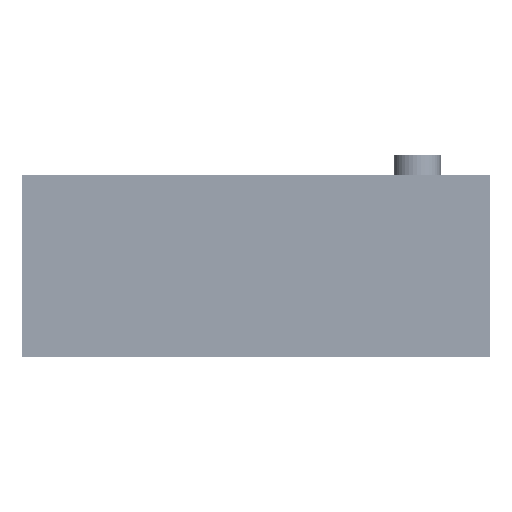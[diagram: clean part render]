
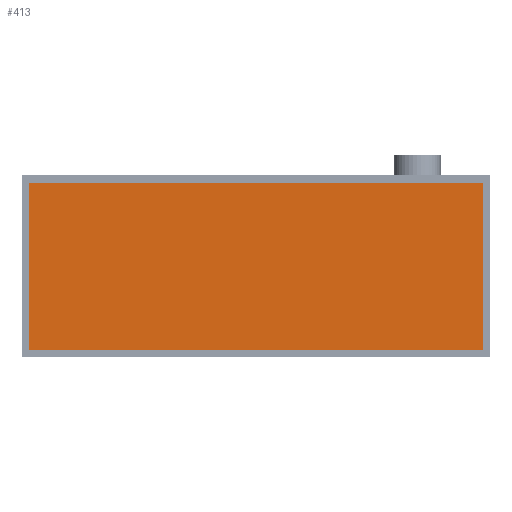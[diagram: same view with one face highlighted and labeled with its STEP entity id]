
A CAD part, left-side view. The second image highlights one B-rep face of the part: STEP entity #413.
In plain terms, the highlighted planar face has unit normal (-1, 0, 0).
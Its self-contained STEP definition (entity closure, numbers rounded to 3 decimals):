
#326 = VERTEX_POINT('',#327);
#327 = CARTESIAN_POINT('',(0.,177.5,3.));
#333 = EDGE_CURVE('',#334,#326,#336,.T.);
#334 = VERTEX_POINT('',#335);
#335 = CARTESIAN_POINT('',(0.,2.5,3.));
#336 = LINE('',#337,#338);
#337 = CARTESIAN_POINT('',(0.,0.,3.));
#338 = VECTOR('',#339,1.);
#339 = DIRECTION('',(-0.,1.,0.));
#395 = EDGE_CURVE('',#334,#396,#398,.T.);
#396 = VERTEX_POINT('',#397);
#397 = CARTESIAN_POINT('',(0.,2.5,67.));
#398 = LINE('',#399,#400);
#399 = CARTESIAN_POINT('',(0.,2.5,3.));
#400 = VECTOR('',#401,1.);
#401 = DIRECTION('',(0.,0.,1.));
#413 = ADVANCED_FACE('',(#414),#432,.F.);
#414 = FACE_BOUND('',#415,.F.);
#415 = EDGE_LOOP('',(#416,#417,#418,#426));
#416 = ORIENTED_EDGE('',*,*,#395,.F.);
#417 = ORIENTED_EDGE('',*,*,#333,.T.);
#418 = ORIENTED_EDGE('',*,*,#419,.T.);
#419 = EDGE_CURVE('',#326,#420,#422,.T.);
#420 = VERTEX_POINT('',#421);
#421 = CARTESIAN_POINT('',(0.,177.5,67.));
#422 = LINE('',#423,#424);
#423 = CARTESIAN_POINT('',(0.,177.5,3.));
#424 = VECTOR('',#425,1.);
#425 = DIRECTION('',(0.,0.,1.));
#426 = ORIENTED_EDGE('',*,*,#427,.F.);
#427 = EDGE_CURVE('',#396,#420,#428,.T.);
#428 = LINE('',#429,#430);
#429 = CARTESIAN_POINT('',(0.,2.5,67.));
#430 = VECTOR('',#431,1.);
#431 = DIRECTION('',(-0.,1.,0.));
#432 = PLANE('',#433);
#433 = AXIS2_PLACEMENT_3D('',#434,#435,#436);
#434 = CARTESIAN_POINT('',(0.,2.5,3.));
#435 = DIRECTION('',(1.,0.,-0.));
#436 = DIRECTION('',(0.,0.,1.));
